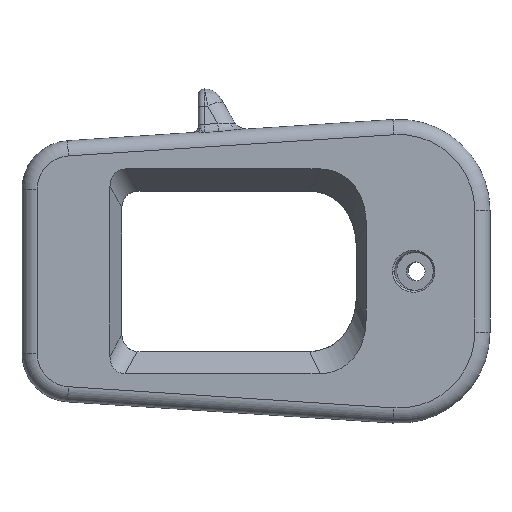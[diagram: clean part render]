
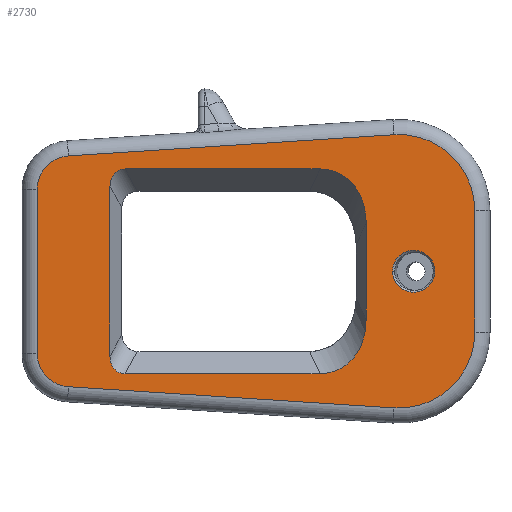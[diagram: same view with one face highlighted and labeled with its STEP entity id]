
A CAD part, front view. The second image highlights one B-rep face of the part: STEP entity #2730.
In plain terms, the highlighted planar face has unit normal (0, -1, 0).
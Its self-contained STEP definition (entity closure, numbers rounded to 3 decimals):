
#1=DIRECTION('',(0.,0.,1.));
#2=VECTOR('',#1,27.909);
#3=CARTESIAN_POINT('',(-57.522,0.,-13.955));
#4=LINE('',#3,#2);
#5=CARTESIAN_POINT('',(-4.08,0.,0.));
#6=CARTESIAN_POINT('',(-4.08,0.,0.201));
#7=CARTESIAN_POINT('',(-4.134,0.,0.804));
#8=CARTESIAN_POINT('',(-4.55,0.,1.944));
#9=CARTESIAN_POINT('',(-5.732,0.,3.127));
#10=CARTESIAN_POINT('',(-7.561,0.,3.613));
#11=CARTESIAN_POINT('',(-9.389,0.,3.123));
#12=CARTESIAN_POINT('',(-10.567,0.,1.94));
#13=CARTESIAN_POINT('',(-10.981,0.,0.802));
#14=CARTESIAN_POINT('',(-11.035,0.,0.2));
#15=CARTESIAN_POINT('',(-11.035,0.,0.));
#39=CARTESIAN_POINT('',(-11.035,0.,0.));
#40=CARTESIAN_POINT('',(-11.035,0.,-0.2));
#41=CARTESIAN_POINT('',(-10.981,0.,-0.802));
#42=CARTESIAN_POINT('',(-10.567,0.,-1.94));
#43=CARTESIAN_POINT('',(-9.389,0.,-3.123));
#44=CARTESIAN_POINT('',(-7.562,0.,-3.613));
#45=CARTESIAN_POINT('',(-5.732,0.,-3.127));
#46=CARTESIAN_POINT('',(-4.55,0.,-1.944));
#47=CARTESIAN_POINT('',(-4.134,0.,-0.804));
#48=CARTESIAN_POINT('',(-4.08,0.,-0.201));
#49=CARTESIAN_POINT('',(-4.08,0.,0.));
#284=CARTESIAN_POINT('',(-55.039,0.,-16.837));
#285=CARTESIAN_POINT('',(-55.486,0.,-16.837));
#286=CARTESIAN_POINT('',(-56.177,0.,-16.634));
#287=CARTESIAN_POINT('',(-56.91,0.,-16.026));
#288=CARTESIAN_POINT('',(-57.385,0.,-15.159));
#289=CARTESIAN_POINT('',(-57.522,0.,-14.402));
#290=CARTESIAN_POINT('',(-57.522,0.,-13.955));
#312=DIRECTION('',(-1.,0.,0.));
#313=VECTOR('',#312,32.075);
#314=CARTESIAN_POINT('',(-22.964,0.,-16.837));
#315=LINE('',#314,#313);
#334=CARTESIAN_POINT('',(-15.38,0.,-7.854));
#335=CARTESIAN_POINT('',(-15.38,0.,-9.235));
#336=CARTESIAN_POINT('',(-15.799,0.,-11.577));
#337=CARTESIAN_POINT('',(-17.247,0.,-14.27));
#338=CARTESIAN_POINT('',(-19.097,0.,-15.871));
#339=CARTESIAN_POINT('',(-21.069,0.,-16.66));
#340=CARTESIAN_POINT('',(-22.273,0.,-16.837));
#341=CARTESIAN_POINT('',(-22.964,0.,-16.837));
#353=DIRECTION('',(0.,0.,-1.));
#354=VECTOR('',#353,15.709);
#355=CARTESIAN_POINT('',(-15.38,0.,7.854));
#356=LINE('',#355,#354);
#385=CARTESIAN_POINT('',(-22.964,0.,16.837));
#386=CARTESIAN_POINT('',(-22.273,0.,16.837));
#387=CARTESIAN_POINT('',(-21.069,0.,16.66));
#388=CARTESIAN_POINT('',(-19.097,0.,15.871));
#389=CARTESIAN_POINT('',(-17.247,0.,14.27));
#390=CARTESIAN_POINT('',(-15.799,0.,11.577));
#391=CARTESIAN_POINT('',(-15.38,0.,9.235));
#392=CARTESIAN_POINT('',(-15.38,0.,7.854));
#404=DIRECTION('',(1.,0.,0.));
#405=VECTOR('',#404,32.075);
#406=CARTESIAN_POINT('',(-55.039,0.,16.837));
#407=LINE('',#406,#405);
#433=CARTESIAN_POINT('',(-57.522,0.,13.955));
#434=CARTESIAN_POINT('',(-57.522,0.,14.402));
#435=CARTESIAN_POINT('',(-57.385,0.,15.159));
#436=CARTESIAN_POINT('',(-56.91,0.,16.026));
#437=CARTESIAN_POINT('',(-56.177,0.,16.634));
#438=CARTESIAN_POINT('',(-55.486,0.,16.837));
#439=CARTESIAN_POINT('',(-55.039,0.,16.837));
#1201=CARTESIAN_POINT('',(-10.,0.,9.994));
#1202=DIRECTION('',(0.,1.,0.));
#1203=DIRECTION('',(-0.065,0.,0.998));
#1204=AXIS2_PLACEMENT_3D('',#1201,#1202,#1203);
#1215=DIRECTION('',(0.,0.,-1.));
#1216=VECTOR('',#1215,19.989);
#1217=CARTESIAN_POINT('',(2.5,0.,9.994));
#1218=LINE('',#1217,#1216);
#1246=CARTESIAN_POINT('',(-10.,0.,-9.994));
#1247=DIRECTION('',(0.,1.,0.));
#1248=DIRECTION('',(1.,0.,0.));
#1249=AXIS2_PLACEMENT_3D('',#1246,#1247,#1248);
#1260=DIRECTION('',(-0.998,0.,0.065));
#1261=VECTOR('',#1260,53.659);
#1262=CARTESIAN_POINT('',(-10.81,0.,-22.468));
#1263=LINE('',#1262,#1261);
#1708=CARTESIAN_POINT('',(-64.,0.,13.503));
#1709=DIRECTION('',(0.,1.,0.));
#1710=DIRECTION('',(-1.,0.,0.));
#1711=AXIS2_PLACEMENT_3D('',#1708,#1709,#1710);
#1722=DIRECTION('',(0.998,0.,0.065));
#1723=VECTOR('',#1722,53.659);
#1724=CARTESIAN_POINT('',(-64.356,0.,18.991));
#1725=LINE('',#1724,#1723);
#2058=DIRECTION('',(0.,0.,1.));
#2059=VECTOR('',#2058,27.005);
#2060=CARTESIAN_POINT('',(-69.5,0.,-13.503));
#2061=LINE('',#2060,#2059);
#2072=CARTESIAN_POINT('',(-64.,0.,-13.503));
#2073=DIRECTION('',(0.,1.,0.));
#2074=DIRECTION('',(-0.065,0.,-0.998));
#2075=AXIS2_PLACEMENT_3D('',#2072,#2073,#2074);
#2359=CARTESIAN_POINT('',(-10.81,0.,
22.468));
#2360=CARTESIAN_POINT('',(2.5,0.,
9.994));
#2361=VERTEX_POINT('',#2359);
#2362=VERTEX_POINT('',#2360);
#2365=CARTESIAN_POINT('',(2.5,0.,-9.994));
#2366=VERTEX_POINT('',#2365);
#2369=CARTESIAN_POINT('',(-10.81,0.,
-22.468));
#2370=VERTEX_POINT('',#2369);
#2373=CARTESIAN_POINT('',(-64.356,0.,-18.991));
#2374=VERTEX_POINT('',#2373);
#2377=CARTESIAN_POINT('',(-69.5,0.,
-13.503));
#2378=VERTEX_POINT('',#2377);
#2381=CARTESIAN_POINT('',(-69.5,0.,13.503));
#2382=VERTEX_POINT('',#2381);
#2385=CARTESIAN_POINT('',(-64.356,0.,
18.991));
#2386=VERTEX_POINT('',#2385);
#2399=CARTESIAN_POINT('',(-15.38,0.,7.854));
#2400=CARTESIAN_POINT('',(-15.38,0.,-7.854));
#2401=VERTEX_POINT('',#2399);
#2402=VERTEX_POINT('',#2400);
#2403=VERTEX_POINT('',#341);
#2404=VERTEX_POINT('',#385);
#2405=CARTESIAN_POINT('',(-57.522,0.,-13.955));
#2406=CARTESIAN_POINT('',(-57.522,0.,13.955));
#2407=VERTEX_POINT('',#2405);
#2408=VERTEX_POINT('',#2406);
#2409=CARTESIAN_POINT('',(-55.039,0.,-16.837));
#2410=VERTEX_POINT('',#2409);
#2411=CARTESIAN_POINT('',(-55.039,0.,16.837));
#2412=VERTEX_POINT('',#2411);
#2475=VERTEX_POINT('',#5);
#2476=VERTEX_POINT('',#15);
#2683=CARTESIAN_POINT('',(0.,0.,0.));
#2684=DIRECTION('',(0.,1.,0.));
#2685=DIRECTION('',(1.,0.,0.));
#2686=AXIS2_PLACEMENT_3D('',#2683,#2684,#2685);
#2687=PLANE('',#2686);
#2689=ORIENTED_EDGE('',*,*,#2688,.T.);
#2691=ORIENTED_EDGE('',*,*,#2690,.T.);
#2693=ORIENTED_EDGE('',*,*,#2692,.T.);
#2695=ORIENTED_EDGE('',*,*,#2694,.T.);
#2697=ORIENTED_EDGE('',*,*,#2696,.T.);
#2699=ORIENTED_EDGE('',*,*,#2698,.T.);
#2701=ORIENTED_EDGE('',*,*,#2700,.T.);
#2703=ORIENTED_EDGE('',*,*,#2702,.T.);
#2704=EDGE_LOOP('',(#2689,#2691,#2693,#2695,#2697,#2699,#2701,#2703));
#2705=FACE_OUTER_BOUND('',#2704,.F.);
#2707=ORIENTED_EDGE('',*,*,#2706,.T.);
#2709=ORIENTED_EDGE('',*,*,#2708,.T.);
#2710=EDGE_LOOP('',(#2707,#2709));
#2711=FACE_BOUND('',#2710,.F.);
#2713=ORIENTED_EDGE('',*,*,#2712,.F.);
#2715=ORIENTED_EDGE('',*,*,#2714,.F.);
#2717=ORIENTED_EDGE('',*,*,#2716,.F.);
#2719=ORIENTED_EDGE('',*,*,#2718,.F.);
#2721=ORIENTED_EDGE('',*,*,#2720,.F.);
#2723=ORIENTED_EDGE('',*,*,#2722,.F.);
#2725=ORIENTED_EDGE('',*,*,#2724,.F.);
#2727=ORIENTED_EDGE('',*,*,#2726,.F.);
#2728=EDGE_LOOP('',(#2713,#2715,#2717,#2719,#2721,#2723,#2725,#2727));
#2729=FACE_BOUND('',#2728,.F.);
#2730=ADVANCED_FACE('',(#2705,#2711,#2729),#2687,.F.);
#16=B_SPLINE_CURVE_WITH_KNOTS('',3,(#5,#6,#7,#8,#9,#10,#11,#12,#13,#14,#15),
.UNSPECIFIED.,.F.,.F.,(4,1,1,1,1,1,1,1,4),(0.,0.056,
0.167,0.333,0.5,0.667,0.833,
0.944,1.),.UNSPECIFIED.);
#50=B_SPLINE_CURVE_WITH_KNOTS('',3,(#39,#40,#41,#42,#43,#44,#45,#46,#47,#48,
#49),.UNSPECIFIED.,.F.,.F.,(4,1,1,1,1,1,1,1,4),(0.,0.056,
0.167,0.333,0.5,0.667,0.833,
0.944,1.),.UNSPECIFIED.);
#291=B_SPLINE_CURVE_WITH_KNOTS('',3,(#284,#285,#286,#287,#288,#289,#290),
.UNSPECIFIED.,.F.,.F.,(4,1,1,1,4),(0.,0.25,0.5,0.75,1.),
.UNSPECIFIED.);
#342=B_SPLINE_CURVE_WITH_KNOTS('',3,(#334,#335,#336,#337,#338,#339,#340,#341),
.UNSPECIFIED.,.F.,.F.,(4,1,1,1,1,4),(0.,0.25,0.5,0.75,0.875,1.),
.UNSPECIFIED.);
#393=B_SPLINE_CURVE_WITH_KNOTS('',3,(#385,#386,#387,#388,#389,#390,#391,#392),
.UNSPECIFIED.,.F.,.F.,(4,1,1,1,1,4),(0.,0.125,0.25,0.5,0.75,1.),
.UNSPECIFIED.);
#440=B_SPLINE_CURVE_WITH_KNOTS('',3,(#433,#434,#435,#436,#437,#438,#439),
.UNSPECIFIED.,.F.,.F.,(4,1,1,1,4),(0.,0.25,0.5,0.75,1.),
.UNSPECIFIED.);
#1205=CIRCLE('',#1204,12.5);
#1250=CIRCLE('',#1249,12.5);
#1712=CIRCLE('',#1711,5.5);
#2076=CIRCLE('',#2075,5.5);
#2688=EDGE_CURVE('',#2361,#2362,#1205,.T.);
#2690=EDGE_CURVE('',#2362,#2366,#1218,.T.);
#2692=EDGE_CURVE('',#2366,#2370,#1250,.T.);
#2694=EDGE_CURVE('',#2370,#2374,#1263,.T.);
#2696=EDGE_CURVE('',#2374,#2378,#2076,.T.);
#2698=EDGE_CURVE('',#2378,#2382,#2061,.T.);
#2700=EDGE_CURVE('',#2382,#2386,#1712,.T.);
#2702=EDGE_CURVE('',#2386,#2361,#1725,.T.);
#2706=EDGE_CURVE('',#2475,#2476,#16,.T.);
#2708=EDGE_CURVE('',#2476,#2475,#50,.T.);
#2712=EDGE_CURVE('',#2407,#2408,#4,.T.);
#2714=EDGE_CURVE('',#2410,#2407,#291,.T.);
#2716=EDGE_CURVE('',#2403,#2410,#315,.T.);
#2718=EDGE_CURVE('',#2402,#2403,#342,.T.);
#2720=EDGE_CURVE('',#2401,#2402,#356,.T.);
#2722=EDGE_CURVE('',#2404,#2401,#393,.T.);
#2724=EDGE_CURVE('',#2412,#2404,#407,.T.);
#2726=EDGE_CURVE('',#2408,#2412,#440,.T.);
